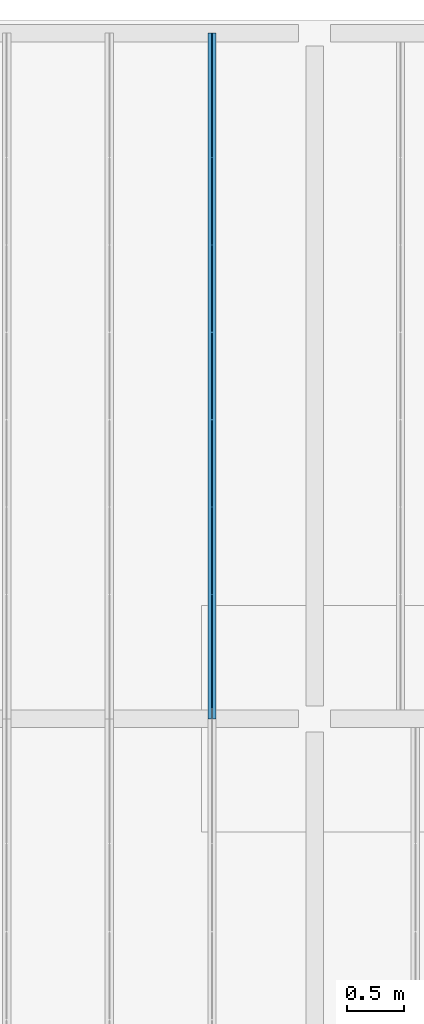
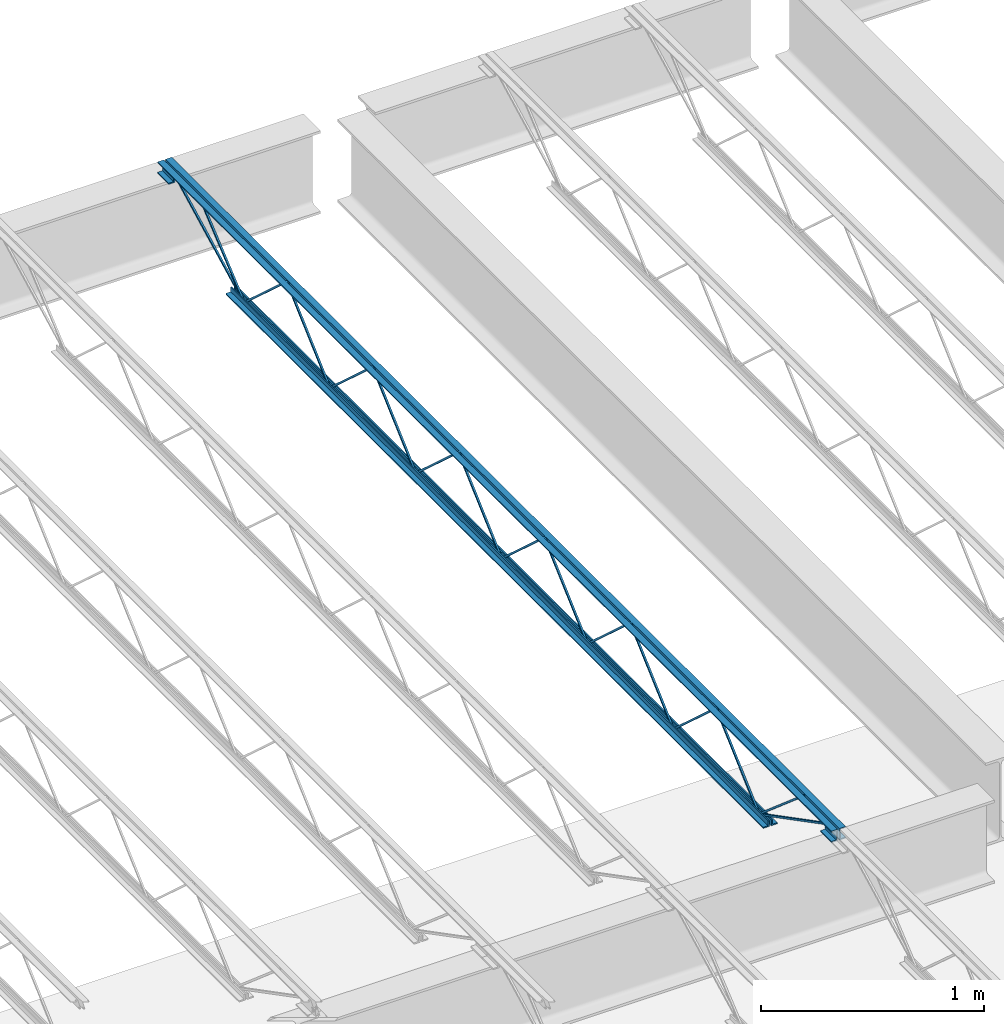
# One storey, part 45 of 75: 1 beam.
"""IFC2X3 building model written with IfcOpenShell, lengths in metres."""

from ifc_helpers import new_model, entity, si_unit, converted_unit, frame, origin, place, context, project, spatial, face_set, surface_model, element, save


model = new_model("IFC2X3")

# Units and contexts
model_context = context("Model", 3, precision=1e-09, world=origin())
plan_context = context("Plan", 3, precision=1e-09, world=origin())
ifc_project = project(units=[si_unit("LENGTHUNIT", "METRE"), si_unit("AREAUNIT", "SQUARE_METRE"), si_unit("VOLUMEUNIT", "CUBIC_METRE"), converted_unit("PLANEANGLEUNIT", "DEGREE", entity("IfcRatioMeasure", 0.01745329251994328), si_unit("PLANEANGLEUNIT", "RADIAN"), dimensions=[0, 0, 0, 0, 0, 0, 0]), si_unit("TIMEUNIT", "SECOND")], contexts=[model_context, plan_context])

# Site, building, storey
site_placement = place(None, origin())
site = spatial("IfcSite", under=ifc_project, at=site_placement, Name="Default", CompositionType="ELEMENT")
building_placement = place(site_placement, origin())
building = spatial("IfcBuilding", under=site, at=building_placement, CompositionType="ELEMENT")
storey_placement = place(building_placement, origin())
storey = spatial("IfcBuildingStorey", under=building, at=storey_placement, Name="First Floor", CompositionType="ELEMENT", Elevation=-3.531500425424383e-13)

# Beam
beam_placement = place(storey_placement, frame((-41.60246428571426, 50.09000000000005, 4.112000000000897), z_axis=(0.0, 0.0, 1.0), x_axis=(-1.0, 0.0, 0.0)))
element("IfcBeam", 1, at=beam_placement, inside=storey, Name="M_K-Series Bar Joist-Rod Web:14K1:14K1", ObjectType="M_K-Series Bar Joist-Rod Web:14K1", context=model_context, shape_type="SurfaceModel", body=[
    surface_model("IfcFaceBasedSurfaceModel", [(-0.03199999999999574, -2.253999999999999, 0.01110000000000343), (-0.04150000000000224, -2.253999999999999, 0.01110000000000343), (-0.04150000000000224, -2.253999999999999, 0.001600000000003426), (-0.03199999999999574, -2.253999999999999, 0.001600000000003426), (-0.04149999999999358, -2.25265592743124, 0.01110000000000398), (-0.03199999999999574, -2.25265592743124, 0.01110000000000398), (-0.04150000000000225, -2.248994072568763, 0.001600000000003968), (-0.04150000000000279, -1.869844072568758, 0.3449000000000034), (-0.0415000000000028, -1.867155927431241, 0.3449000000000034), (-0.04150000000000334, -1.488005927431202, 0.001600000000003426), (-0.04150000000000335, -1.483000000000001, 0.001600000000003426), (-0.04150000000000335, -1.483000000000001, 0.01110000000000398), (-0.04150000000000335, -1.484344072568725, 0.01110000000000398), (-0.04150000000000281, -1.863494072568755, 0.3544000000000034), (-0.04150000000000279, -1.873505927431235, 0.3544000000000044), (-0.03200000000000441, -2.248994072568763, 0.001600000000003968), (-0.03199999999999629, -1.869844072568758, 0.3449000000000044), (-0.0319999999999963, -1.867155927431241, 0.3449000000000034), (-0.03199999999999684, -1.488005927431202, 0.001600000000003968), (-0.03199999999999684, -1.483000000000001, 0.001600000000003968), (-0.03199999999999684, -1.483000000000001, 0.01110000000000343), (-0.03199999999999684, -1.484344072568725, 0.01110000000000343), (-0.0319999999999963, -1.863494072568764, 0.3544000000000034), (-0.03199999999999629, -1.873505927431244, 0.3544000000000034), (-0.03199999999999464, -3.024999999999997, 0.01110000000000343), (-0.04150000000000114, -3.024999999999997, 0.01110000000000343), (-0.04150000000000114, -3.024999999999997, 0.001600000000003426), (-0.03199999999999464, -3.024999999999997, 0.001600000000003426), (-0.04149999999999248, -3.023655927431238, 0.01110000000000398), (-0.03199999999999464, -3.023655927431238, 0.01110000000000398), (-0.04150000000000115, -3.019994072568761, 0.001600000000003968), (-0.04150000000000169, -2.640844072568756, 0.3449000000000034), (-0.04150000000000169, -2.638155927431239, 0.3449000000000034), (-0.04150000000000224, -2.2590059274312, 0.001600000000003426), (-0.04150000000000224, -2.253999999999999, 0.01110000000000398), (-0.04150000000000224, -2.255344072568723, 0.01110000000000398), (-0.0415000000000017, -2.634494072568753, 0.3544000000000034), (-0.04150000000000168, -2.644505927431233, 0.3544000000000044), (-0.03200000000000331, -3.019994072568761, 0.001600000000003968), (-0.03199999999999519, -2.640844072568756, 0.3449000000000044), (-0.03199999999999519, -2.638155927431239, 0.3449000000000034), (-0.03199999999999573, -2.2590059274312, 0.001600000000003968), (-0.03199999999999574, -2.253999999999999, 0.001600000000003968), (-0.03199999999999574, -2.255344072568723, 0.01110000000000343), (-0.0319999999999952, -2.634494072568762, 0.3544000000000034), (-0.03199999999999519, -2.644505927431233, 0.3544000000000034), (-0.03199999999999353, -3.795999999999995, 0.01110000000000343), (-0.04150000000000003, -3.795999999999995, 0.01110000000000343), (-0.04150000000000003, -3.795999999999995, 0.001600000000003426), (-0.03199999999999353, -3.795999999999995, 0.001600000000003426), (-0.04149999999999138, -3.794655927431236, 0.01110000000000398), (-0.03199999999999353, -3.794655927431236, 0.01110000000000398), (-0.04150000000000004, -3.790994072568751, 0.001600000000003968), (-0.04150000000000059, -3.411844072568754, 0.3449000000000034), (-0.04150000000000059, -3.409155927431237, 0.3449000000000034), (-0.04150000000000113, -3.030005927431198, 0.001600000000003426), (-0.04150000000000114, -3.024999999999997, 0.01110000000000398), (-0.04150000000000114, -3.026344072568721, 0.01110000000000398), (-0.0415000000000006, -3.405494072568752, 0.3544000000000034), (-0.04150000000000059, -3.415505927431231, 0.3544000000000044), (-0.03200000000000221, -3.790994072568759, 0.001600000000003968), (-0.03199999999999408, -3.411844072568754, 0.3449000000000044), (-0.03199999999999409, -3.409155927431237, 0.3449000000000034), (-0.03199999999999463, -3.030005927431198, 0.001600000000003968), (-0.03199999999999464, -3.024999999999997, 0.001600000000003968), (-0.03199999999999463, -3.026344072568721, 0.01110000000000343), (-0.03199999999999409, -3.405494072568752, 0.3544000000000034), (-0.03199999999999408, -3.415505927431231, 0.3544000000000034), (-0.03199999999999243, -4.566999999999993, 0.01110000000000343), (-0.04149999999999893, -4.566999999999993, 0.01110000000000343), (-0.04149999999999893, -4.566999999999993, 0.001600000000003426), (-0.03199999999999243, -4.566999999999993, 0.001600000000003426), (-0.04149999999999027, -4.565655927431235, 0.01110000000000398), (-0.03199999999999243, -4.565655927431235, 0.01110000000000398), (-0.04149999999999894, -4.561994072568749, 0.001600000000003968), (-0.04149999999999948, -4.182844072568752, 0.3449000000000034), (-0.04149999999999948, -4.180155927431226, 0.3449000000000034), (-0.04150000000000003, -3.801005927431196, 0.001600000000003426), (-0.04150000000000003, -3.795999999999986, 0.001600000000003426), (-0.04150000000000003, -3.795999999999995, 0.01110000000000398), (-0.04150000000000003, -3.797344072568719, 0.01110000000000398), (-0.04149999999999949, -4.176494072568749, 0.3544000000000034), (-0.04149999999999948, -4.186505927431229, 0.3544000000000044), (-0.0320000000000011, -4.561994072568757, 0.001600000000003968), (-0.03199999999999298, -4.182844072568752, 0.3449000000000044), (-0.03199999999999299, -4.180155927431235, 0.3449000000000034), (-0.03199999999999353, -3.801005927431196, 0.001600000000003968), (-0.03199999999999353, -3.795999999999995, 0.001600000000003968), (-0.03199999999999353, -3.795999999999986, 0.01110000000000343), (-0.03199999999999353, -3.79734407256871, 0.01110000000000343), (-0.03199999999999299, -4.176494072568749, 0.3544000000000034), (-0.03199999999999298, -4.186505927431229, 0.3544000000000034), (-0.03199999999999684, -1.483000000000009, 0.01109999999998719), (-0.04150000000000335, -1.483000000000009, 0.01109999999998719), (-0.04150000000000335, -1.483000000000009, 0.001599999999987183), (-0.03199999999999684, -1.483000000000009, 0.001599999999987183), (-0.04150000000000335, -1.481655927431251, 0.01109999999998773), (-0.03200000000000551, -1.481655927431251, 0.01109999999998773), (-0.04150000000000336, -1.477994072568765, 0.001599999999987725), (-0.0415000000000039, -1.098844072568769, 0.3448999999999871), (-0.0415000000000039, -1.096155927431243, 0.3448999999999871), (-0.04150000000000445, -0.7170059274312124, 0.001599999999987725), (-0.04150000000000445, -0.7120000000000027, 0.001599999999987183), (-0.04150000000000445, -0.7120000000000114, 0.01109999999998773), (-0.04150000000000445, -0.7133440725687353, 0.01109999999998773), (-0.04150000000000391, -1.092494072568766, 0.3543999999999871), (-0.04150000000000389, -1.102505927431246, 0.3543999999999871), (-0.03200000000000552, -1.477994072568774, 0.001599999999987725), (-0.03200000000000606, -1.098844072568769, 0.3448999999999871), (-0.03200000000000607, -1.096155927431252, 0.3448999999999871), (-0.03200000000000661, -0.7170059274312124, 0.001599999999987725), (-0.03200000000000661, -0.7120000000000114, 0.001599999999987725), (-0.03199999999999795, -0.7120000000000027, 0.01109999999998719), (-0.03200000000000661, -0.7133440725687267, 0.01109999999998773), (-0.03200000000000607, -1.092494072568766, 0.3543999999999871), (-0.03200000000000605, -1.102505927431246, 0.3543999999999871), (-0.03199999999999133, -5.337999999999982, 0.01110000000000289), (-0.04149999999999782, -5.337999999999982, 0.01110000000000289), (-0.04149999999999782, -5.337999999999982, 0.001600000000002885), (-0.03199999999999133, -5.337999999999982, 0.001600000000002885), (-0.04149999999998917, -5.336655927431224, 0.01110000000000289), (-0.03199999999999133, -5.336655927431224, 0.01110000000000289), (-0.04149999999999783, -5.332994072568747, 0.001600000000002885), (-0.04149999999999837, -4.953844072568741, 0.3449000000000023), (-0.04149999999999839, -4.951155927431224, 0.3449000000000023), (-0.04149999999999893, -4.572005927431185, 0.001600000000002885), (-0.04149999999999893, -4.566999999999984, 0.001600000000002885), (-0.04149999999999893, -4.566999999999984, 0.01110000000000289), (-0.04149999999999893, -4.568344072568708, 0.01110000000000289), (-0.04149999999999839, -4.947494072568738, 0.3544000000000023), (-0.04149999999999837, -4.957505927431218, 0.3544000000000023), (-0.03199999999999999, -5.332994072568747, 0.001600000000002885), (-0.03199999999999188, -4.953844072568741, 0.3449000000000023), (-0.03199999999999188, -4.951155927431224, 0.3449000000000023), (-0.03199999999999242, -4.572005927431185, 0.001600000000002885), (-0.03199999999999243, -4.566999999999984, 0.001600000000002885), (-0.03199999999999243, -4.566999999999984, 0.01110000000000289), (-0.03199999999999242, -4.568344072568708, 0.01110000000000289), (-0.03199999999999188, -4.947494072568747, 0.3544000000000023), (-0.03199999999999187, -4.957505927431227, 0.3544000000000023), (-0.04150000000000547, 0.0, 0.3559999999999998), (-0.07350000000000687, 0.0, 0.3559999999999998), (-0.07350000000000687, 0.0, 0.349499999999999), (-0.048000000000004, 0.0, 0.349499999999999), (-0.048000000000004, 0.0, 0.3239999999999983), (-0.04150000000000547, 0.0, 0.3239999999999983), (-0.03200000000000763, 0.0, 0.3559999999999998), (-0.03200000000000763, 0.0, 0.3239999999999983), (-0.02550000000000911, 0.0, 0.3239999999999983), (-0.02550000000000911, 0.0, 0.349499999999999), (0.0, 0.0, 0.349499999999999), (0.0, 0.0, 0.3559999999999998), (-0.04149999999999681, -6.049999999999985, 0.3559999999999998), (-0.07349999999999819, -6.049999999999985, 0.3559999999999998), (-0.07349999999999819, -6.049999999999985, 0.349499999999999), (-0.04799999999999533, -6.049999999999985, 0.349499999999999), (-0.04799999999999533, -6.049999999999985, 0.3239999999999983), (-0.04149999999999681, -6.049999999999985, 0.3239999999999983), (-0.03199999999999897, -6.049999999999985, 0.3559999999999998), (-0.03199999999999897, -6.049999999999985, 0.3239999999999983), (-0.02550000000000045, -6.049999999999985, 0.3239999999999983), (-0.02550000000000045, -6.049999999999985, 0.349499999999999), (0.0, -6.049999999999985, 0.349499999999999), (0.0, -6.049999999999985, 0.3559999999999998), (-0.03199999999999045, -5.949999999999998, 0.2924999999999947), (0.0, -5.949999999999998, 0.2924999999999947), (0.0, -5.949999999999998, 0.2989999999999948), (-0.02549999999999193, -5.949999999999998, 0.2989999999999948), (-0.02549999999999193, -5.949999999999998, 0.3239999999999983), (-0.03199999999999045, -5.949999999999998, 0.3239999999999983), (-0.07349999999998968, -5.949999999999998, 0.2924999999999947), (-0.04149999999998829, -5.949999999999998, 0.2924999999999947), (-0.04149999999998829, -5.949999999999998, 0.3239999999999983), (-0.04799999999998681, -5.949999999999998, 0.3239999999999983), (-0.04799999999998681, -5.949999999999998, 0.2989999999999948), (-0.07349999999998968, -5.949999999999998, 0.2989999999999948), (-0.03199999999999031, -6.049999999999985, 0.2924999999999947), (0.0, -6.049999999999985, 0.2924999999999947), (0.0, -6.049999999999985, 0.2989999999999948), (-0.02549999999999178, -6.049999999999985, 0.2989999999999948), (-0.02549999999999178, -6.049999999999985, 0.3239999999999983), (-0.03199999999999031, -6.049999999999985, 0.3239999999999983), (-0.07349999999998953, -6.049999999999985, 0.2924999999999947), (-0.04149999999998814, -6.049999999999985, 0.2924999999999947), (-0.04149999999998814, -6.049999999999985, 0.3239999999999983), (-0.04799999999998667, -6.049999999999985, 0.3239999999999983), (-0.04799999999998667, -6.049999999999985, 0.2989999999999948), (-0.07349999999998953, -6.049999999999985, 0.2989999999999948), (-0.04149999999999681, 0.0, 0.2924999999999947), (-0.04149999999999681, 0.0, 0.3239999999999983), (-0.04799999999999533, 0.0, 0.3239999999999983), (-0.04799999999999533, 0.0, 0.2989999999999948), (-0.07349999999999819, 0.0, 0.2989999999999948), (-0.07349999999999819, 0.0, 0.2924999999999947), (-0.03199999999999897, 0.0, 0.2924999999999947), (0.0, 0.0, 0.2924999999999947), (0.0, 0.0, 0.2989999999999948), (-0.02550000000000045, 0.0, 0.2989999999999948), (-0.02550000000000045, 0.0, 0.3239999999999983), (-0.03199999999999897, 0.0, 0.3239999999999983), (-0.04149999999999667, -0.09999999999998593, 0.2924999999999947), (-0.04149999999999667, -0.09999999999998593, 0.3239999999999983), (-0.04799999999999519, -0.09999999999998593, 0.3239999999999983), (-0.04799999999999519, -0.09999999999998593, 0.2989999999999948), (-0.07349999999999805, -0.09999999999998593, 0.2989999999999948), (-0.07349999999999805, -0.09999999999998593, 0.2924999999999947), (-0.03199999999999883, -0.09999999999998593, 0.2924999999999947), (0.0, -0.09999999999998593, 0.2924999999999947), (0.0, -0.09999999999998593, 0.2989999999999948), (-0.0255000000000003, -0.09999999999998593, 0.2989999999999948), (-0.0255000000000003, -0.09999999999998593, 0.3239999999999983), (-0.03199999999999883, -0.09999999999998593, 0.3239999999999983), (-0.0415000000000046, -0.6119999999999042, 0.0), (-0.0415000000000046, -0.6119999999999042, 0.03199999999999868), (-0.04800000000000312, -0.6119999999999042, 0.03199999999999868), (-0.04800000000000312, -0.6119999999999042, 0.006499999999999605), (-0.07350000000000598, -0.6119999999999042, 0.006499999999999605), (-0.07350000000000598, -0.6119999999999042, 0.0), (-0.03200000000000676, -0.6119999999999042, 0.0), (0.0, -0.6119999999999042, 0.0), (0.0, -0.6119999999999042, 0.006499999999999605), (-0.02550000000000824, -0.6119999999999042, 0.006499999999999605), (-0.02550000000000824, -0.6119999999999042, 0.03199999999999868), (-0.03200000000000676, -0.6119999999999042, 0.03199999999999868), (-0.04149999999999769, -5.437999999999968, 0.0), (-0.04149999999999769, -5.437999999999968, 0.03199999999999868), (-0.04799999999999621, -5.437999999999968, 0.03199999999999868), (-0.04799999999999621, -5.437999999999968, 0.006499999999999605), (-0.07349999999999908, -5.437999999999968, 0.006499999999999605), (-0.07349999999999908, -5.437999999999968, 0.0), (-0.03199999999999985, -5.437999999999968, 0.0), (0.0, -5.437999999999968, 0.0), (0.0, -5.437999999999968, 0.006499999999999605), (-0.02550000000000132, -5.437999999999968, 0.006499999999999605), (-0.02550000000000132, -5.437999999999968, 0.03199999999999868), (-0.03199999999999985, -5.437999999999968, 0.03199999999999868), (-0.03199999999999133, -5.335811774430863, 0.01056594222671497), (-0.04149999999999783, -5.335811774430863, 0.01056594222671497), (-0.04149999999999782, -5.340188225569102, 0.002134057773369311), (-0.03199999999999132, -5.340188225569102, 0.002134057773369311), (-0.03199999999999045, -5.948840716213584, 0.3287499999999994), (-0.03199999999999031, -6.049999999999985, 0.3287499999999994), (-0.03199999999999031, -6.049999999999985, 0.3192499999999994), (-0.03199999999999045, -5.951159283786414, 0.3192499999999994), (-0.04149999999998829, -5.951159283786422, 0.3192499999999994), (-0.04149999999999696, -5.948840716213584, 0.3287499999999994), (-0.04149999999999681, -6.049999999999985, 0.3287499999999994), (-0.04149999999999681, -6.049999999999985, 0.3192499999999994), (-0.03199999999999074, -5.74345714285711, 0.341700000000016), (-0.04149999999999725, -5.74345714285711, 0.341700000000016), (-0.04149999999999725, -5.74345714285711, 0.332200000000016), (-0.03199999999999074, -5.74345714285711, 0.332200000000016), (-0.0414999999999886, -5.729024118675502, 0.341700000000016), (-0.03199999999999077, -5.729024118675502, 0.341700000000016), (-0.04149999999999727, -5.732490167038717, 0.332200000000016), (-0.04149999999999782, -5.341058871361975, 0.002716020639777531), (-0.04149999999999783, -5.334941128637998, 0.009983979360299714), (-0.03199999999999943, -5.732490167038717, 0.332200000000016), (-0.03199999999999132, -5.341058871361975, 0.002716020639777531), (-0.03199999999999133, -5.33494112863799, 0.009983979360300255), (-0.03199999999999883, -0.09781177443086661, 0.3197840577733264), (-0.03199999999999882, -0.1021882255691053, 0.3282159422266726), (-0.04150000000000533, -0.1021882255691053, 0.3282159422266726), (-0.04150000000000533, -0.09781177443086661, 0.3197840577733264), (-0.03199999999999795, -0.7098117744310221, 0.002134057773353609), (-0.03199999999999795, -0.7141882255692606, 0.01056594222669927), (-0.04150000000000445, -0.7141882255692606, 0.01056594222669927), (-0.04150000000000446, -0.7098117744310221, 0.002134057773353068), (-0.03199999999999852, -0.3088922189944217, 0.3460454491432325), (-0.03199999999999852, -0.3150792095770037, 0.3532545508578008), (-0.04150000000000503, -0.3150792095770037, 0.3532545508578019), (-0.04150000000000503, -0.3088922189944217, 0.3460454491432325), (-0.03199999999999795, -0.7089065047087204, 0.002745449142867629), (-0.03199999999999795, -0.7150934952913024, 0.009954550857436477), (-0.04150000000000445, -0.7150934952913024, 0.009954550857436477), (-0.04150000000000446, -0.7089065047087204, 0.002745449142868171)], [face_set([[[0, 1, 2, 3]], [[1, 4, 5, 0]], [[2, 6, 7, 8, 9, 10, 11, 12, 13, 14, 4, 1]], [[3, 2, 6, 15]], [[0, 3, 15, 16, 17, 18, 19, 20, 21, 22, 23, 5]], [[4, 5, 23, 14]], [[15, 16, 7, 6]], [[14, 13, 22, 23]], [[16, 7, 8, 17]], [[13, 12, 21, 22]], [[17, 8, 9, 18]], [[20, 11, 10, 19]], [[12, 11, 20, 21]], [[18, 9, 10, 19]]]), face_set([[[24, 25, 26, 27]], [[25, 28, 29, 24]], [[26, 30, 31, 32, 33, 2, 34, 35, 36, 37, 28, 25]], [[27, 26, 30, 38]], [[24, 27, 38, 39, 40, 41, 42, 0, 43, 44, 45, 29]], [[28, 29, 45, 37]], [[38, 39, 31, 30]], [[37, 36, 44, 45]], [[39, 31, 32, 40]], [[36, 35, 43, 44]], [[40, 32, 33, 41]], [[0, 34, 2, 42]], [[35, 34, 0, 43]], [[41, 33, 2, 42]]]), face_set([[[46, 47, 48, 49]], [[47, 50, 51, 46]], [[48, 52, 53, 54, 55, 26, 56, 57, 58, 59, 50, 47]], [[49, 48, 52, 60]], [[46, 49, 60, 61, 62, 63, 64, 24, 65, 66, 67, 51]], [[50, 51, 67, 59]], [[60, 61, 53, 52]], [[59, 58, 66, 67]], [[61, 53, 54, 62]], [[58, 57, 65, 66]], [[62, 54, 55, 63]], [[24, 56, 26, 64]], [[57, 56, 24, 65]], [[63, 55, 26, 64]]]), face_set([[[68, 69, 70, 71]], [[69, 72, 73, 68]], [[70, 74, 75, 76, 77, 78, 79, 80, 81, 82, 72, 69]], [[71, 70, 74, 83]], [[68, 71, 83, 84, 85, 86, 87, 88, 89, 90, 91, 73]], [[72, 73, 91, 82]], [[83, 84, 75, 74]], [[82, 81, 90, 91]], [[84, 75, 76, 85]], [[81, 80, 89, 90]], [[85, 76, 77, 86]], [[88, 79, 78, 87]], [[80, 79, 88, 89]], [[86, 77, 78, 87]]]), face_set([[[92, 93, 94, 95]], [[93, 96, 97, 92]], [[94, 98, 99, 100, 101, 102, 103, 104, 105, 106, 96, 93]], [[95, 94, 98, 107]], [[92, 95, 107, 108, 109, 110, 111, 112, 113, 114, 115, 97]], [[96, 97, 115, 106]], [[107, 108, 99, 98]], [[106, 105, 114, 115]], [[108, 99, 100, 109]], [[105, 104, 113, 114]], [[109, 100, 101, 110]], [[112, 103, 102, 111]], [[104, 103, 112, 113]], [[110, 101, 102, 111]]]), face_set([[[116, 117, 118, 119]], [[117, 120, 121, 116]], [[118, 122, 123, 124, 125, 126, 127, 128, 129, 130, 120, 117]], [[119, 118, 122, 131]], [[116, 119, 131, 132, 133, 134, 135, 136, 137, 138, 139, 121]], [[120, 121, 139, 130]], [[131, 132, 123, 122]], [[130, 129, 138, 139]], [[132, 123, 124, 133]], [[129, 128, 137, 138]], [[133, 124, 125, 134]], [[136, 127, 126, 135]], [[128, 127, 136, 137]], [[134, 125, 126, 135]]]), face_set([[[140, 141, 142, 143, 144, 145]], [[146, 147, 148, 149, 150, 151]], [[152, 153, 154, 155, 156, 157]], [[158, 159, 160, 161, 162, 163]], [[145, 140, 152, 157]], [[144, 145, 157, 156]], [[143, 155, 156, 144]], [[142, 143, 155, 154]], [[141, 153, 154, 142]], [[140, 152, 153, 141]], [[151, 163, 158, 146]], [[150, 151, 163, 162]], [[149, 150, 162, 161]], [[148, 149, 161, 160]], [[147, 148, 160, 159]], [[146, 158, 159, 147]]]), face_set([[[164, 165, 166, 167, 168, 169]], [[170, 171, 172, 173, 174, 175]], [[176, 177, 178, 179, 180, 181]], [[182, 183, 184, 185, 186, 187]], [[169, 181, 176, 164]], [[168, 180, 181, 169]], [[167, 168, 180, 179]], [[166, 178, 179, 167]], [[165, 166, 178, 177]], [[164, 165, 177, 176]], [[175, 187, 182, 170]], [[174, 186, 187, 175]], [[173, 185, 186, 174]], [[172, 184, 185, 173]], [[171, 172, 184, 183]], [[170, 171, 183, 182]]]), face_set([[[188, 189, 190, 191, 192, 193]], [[194, 195, 196, 197, 198, 199]], [[200, 201, 202, 203, 204, 205]], [[206, 207, 208, 209, 210, 211]], [[193, 188, 200, 205]], [[192, 204, 205, 193]], [[191, 203, 204, 192]], [[190, 202, 203, 191]], [[189, 201, 202, 190]], [[188, 189, 201, 200]], [[199, 211, 206, 194]], [[198, 210, 211, 199]], [[197, 198, 210, 209]], [[196, 208, 209, 197]], [[195, 196, 208, 207]], [[194, 195, 207, 206]]]), face_set([[[212, 213, 214, 215, 216, 217]], [[218, 219, 220, 221, 222, 223]], [[224, 225, 226, 227, 228, 229]], [[230, 231, 232, 233, 234, 235]], [[217, 212, 224, 229]], [[216, 228, 229, 217]], [[215, 227, 228, 216]], [[214, 226, 227, 215]], [[213, 225, 226, 214]], [[212, 213, 225, 224]], [[223, 235, 230, 218]], [[222, 234, 235, 223]], [[221, 222, 234, 233]], [[220, 232, 233, 221]], [[219, 220, 232, 231]], [[218, 219, 231, 230]]]), face_set([[[236, 237, 238, 239]], [[239, 236, 240, 241, 242, 243]], [[238, 239, 243, 244]], [[237, 245, 246, 247, 244, 238]], [[236, 240, 245, 237]], [[241, 246, 247, 242]], [[244, 243, 242, 247]], [[240, 241, 246, 245]]]), face_set([[[248, 249, 250, 251]], [[249, 252, 253, 248]], [[250, 254, 255, 256, 252, 249]], [[251, 250, 254, 257]], [[248, 251, 257, 258, 259, 253]], [[259, 256, 255, 258]], [[252, 256, 259, 253]], [[257, 254, 255, 258]]]), face_set([[[260, 261, 262, 263]], [[264, 265, 266, 267]], [[263, 267, 264, 260]], [[262, 266, 267, 263]], [[261, 262, 266, 265]], [[260, 261, 265, 264]]]), face_set([[[268, 269, 270, 271]], [[272, 273, 274, 275]], [[271, 275, 272, 268]], [[270, 274, 275, 271]], [[269, 270, 274, 273]], [[268, 269, 273, 272]]])]),
])

save(model, "model.ifc")
